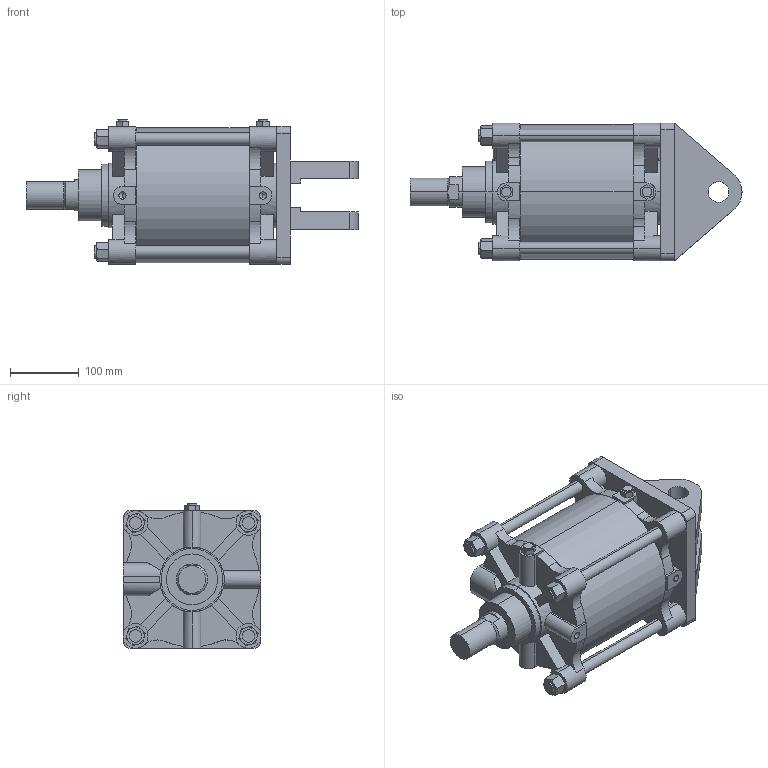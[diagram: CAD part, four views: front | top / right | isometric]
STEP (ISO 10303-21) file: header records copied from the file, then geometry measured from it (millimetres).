
FILE_DESCRIPTION (( 'STEP AP203' ), '1' );
FILE_NAME ('A##2-180#-100-W.STEP', '2016-03-31T06:59:30', ( '' ), ( '' ), 'SwSTEP 2.0', 'SolidWorks 2014', '' );
FILE_SCHEMA (( 'CONFIG_CONTROL_DESIGN' ));
Length unit declared in the file: millimetre
Products named in the file (7): A180-W; A180-100; A##2-180#-100-W; A180-B; A180-A
Assembly tree (12 placements, depth 2):
  A##2-180#-100-W
    A180-B
    A180-100
    A180-A
    (unnamed)  x4
    (unnamed)  x4
    A180-W
Bounding box: 482 x 200 x 210 mm (x, y, z)
Volume: 8801901.8 mm3; surface area: 669126.8 mm2
Topology: 12 solids, 14 shells, 363 faces, 932 edges, 598 vertices
Faces by surface type: plane 187, cylinder 136, torus 24, cone 16
Entity records: 10845 total; most frequent: CARTESIAN_POINT 2146, DIRECTION 1728, ORIENTED_EDGE 1588, EDGE_CURVE 794, AXIS2_PLACEMENT_3D 652, VERTEX_POINT 520, LINE 424, VECTOR 424
